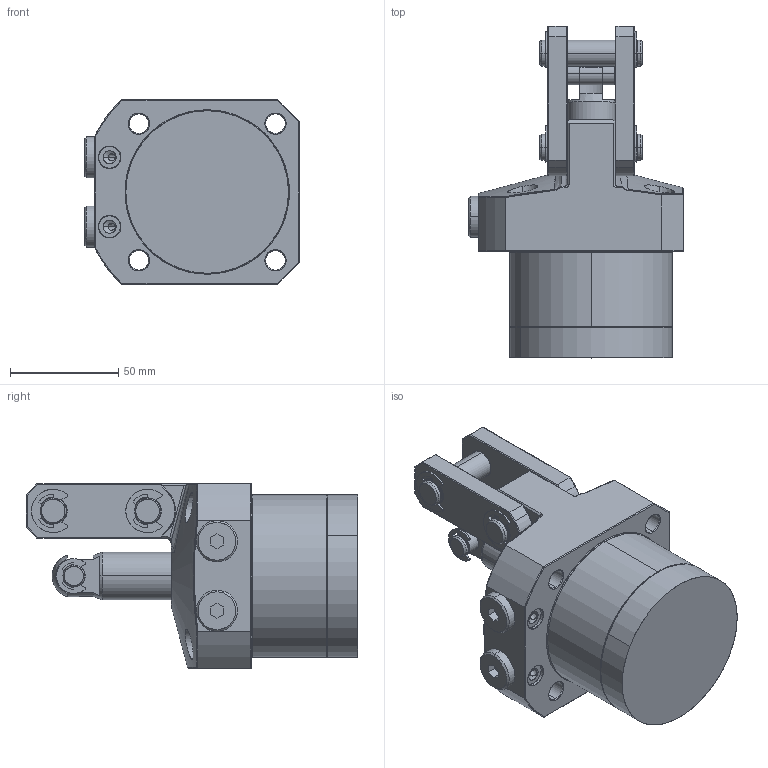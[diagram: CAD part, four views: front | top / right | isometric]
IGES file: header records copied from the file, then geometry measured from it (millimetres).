
Start section: SolidWorks IGES file using analytic representation for surfaces
Global section: file name: D:\abhilash\nijil\cylinder\LKA Series\con v lka\lk750\75lkcr\75CRPT\0402-0752.IGS; native system: SolidWorks 2010; preprocessor: SolidWorks 2010; author: nidheesh; date: 130730.102529; units: millimetre
Bounding box: 99 x 153 x 85 mm (x, y, z)
Surface area: 65773.5 mm2 (no closed solid volume)
Topology: 0 solids, 0 shells, 398 faces, 5401 edges, 5400 vertices
Faces by surface type: revolution 205, bspline 193
